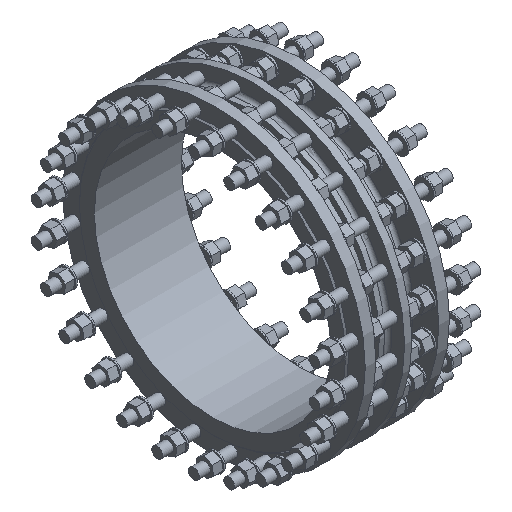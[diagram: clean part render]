
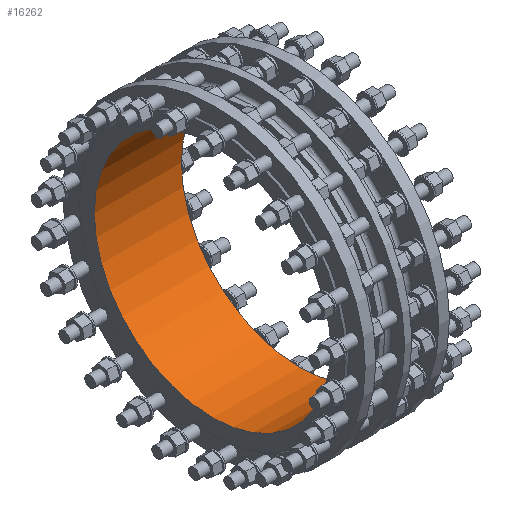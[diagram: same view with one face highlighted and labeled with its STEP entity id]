
A CAD part, isometric view. The second image highlights one B-rep face of the part: STEP entity #16262.
In plain terms, the highlighted cylindrical face has radius 400 mm (diameter 800 mm), a full revolution.
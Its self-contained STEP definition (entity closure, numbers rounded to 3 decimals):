
#2671 = CARTESIAN_POINT ( 'NONE',  ( -163.072, 0., -400. ) ) ;
#3747 = DIRECTION ( 'NONE',  ( 1., 0., 0. ) ) ;
#6487 = DIRECTION ( 'NONE',  ( -1., 0., 0. ) ) ;
#6669 = CARTESIAN_POINT ( 'NONE',  ( -163.072, 0., 0. ) ) ;
#6865 = DIRECTION ( 'NONE',  ( -1., 0., 0. ) ) ;
#7169 = EDGE_LOOP ( 'NONE', ( #35275 ) ) ;
#7923 = EDGE_CURVE ( 'NONE', #20939, #20939, #22953, .T. ) ;
#8307 = CIRCLE ( 'NONE', #15151, 400. ) ;
#8505 = VERTEX_POINT ( 'NONE', #2671 ) ;
#9409 = FACE_OUTER_BOUND ( 'NONE', #7169, .T. ) ;
#15151 = AXIS2_PLACEMENT_3D ( 'NONE', #6669, #3747, #23803 ) ;
#15629 = CARTESIAN_POINT ( 'NONE',  ( 131.928, 0., 0. ) ) ;
#15826 = CYLINDRICAL_SURFACE ( 'NONE', #36559, 400. ) ;
#16262 = ADVANCED_FACE ( 'NONE', ( #9409, #27876 ), #15826, .F. ) ;
#17469 = EDGE_LOOP ( 'NONE', ( #27469 ) ) ;
#20939 = VERTEX_POINT ( 'NONE', #32817 ) ;
#22953 = CIRCLE ( 'NONE', #30396, 400. ) ;
#23803 = DIRECTION ( 'NONE',  ( 0., 0., -1. ) ) ;
#24964 = CARTESIAN_POINT ( 'NONE',  ( -138.072, 0., 0. ) ) ;
#25617 = EDGE_CURVE ( 'NONE', #8505, #8505, #8307, .T. ) ;
#27469 = ORIENTED_EDGE ( 'NONE', *, *, #25617, .F. ) ;
#27871 = DIRECTION ( 'NONE',  ( 0., -1., 0. ) ) ;
#27876 = FACE_OUTER_BOUND ( 'NONE', #17469, .T. ) ;
#30396 = AXIS2_PLACEMENT_3D ( 'NONE', #15629, #6865, #27871 ) ;
#32817 = CARTESIAN_POINT ( 'NONE',  ( 131.928, -400., 0. ) ) ;
#35275 = ORIENTED_EDGE ( 'NONE', *, *, #7923, .F. ) ;
#36559 = AXIS2_PLACEMENT_3D ( 'NONE', #24964, #6487, #36849 ) ;
#36849 = DIRECTION ( 'NONE',  ( 0., -1., 0. ) ) ;
